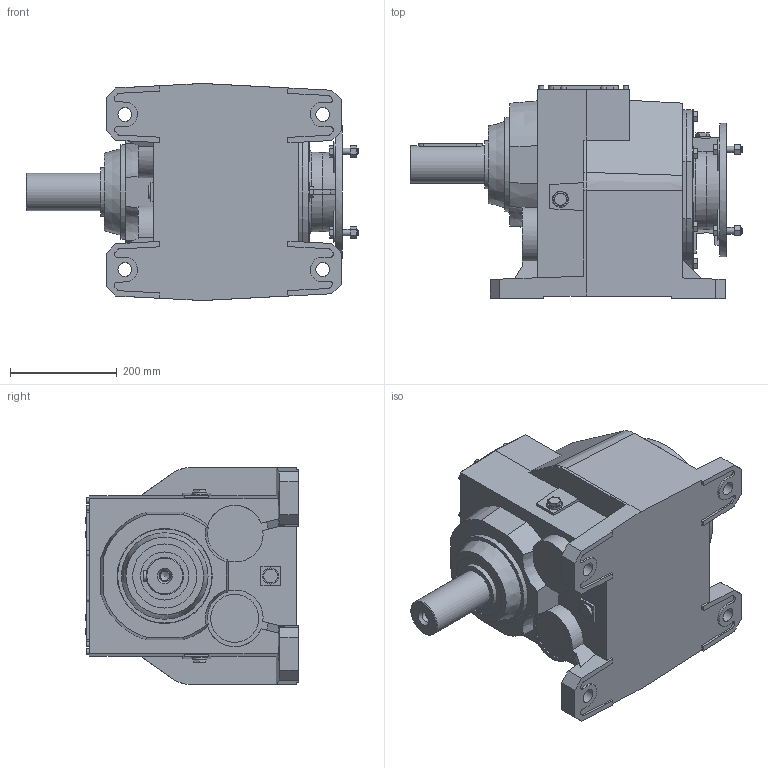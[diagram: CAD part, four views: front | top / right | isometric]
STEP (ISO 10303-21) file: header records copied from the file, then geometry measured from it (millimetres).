
FILE_DESCRIPTION(/* description */ ('STEP AP214'),/* implementation_level */ '2;1');
FILE_NAME(/* name */ 'H123T100-112 B570x1400NO----(-NO----------)',/* time_stamp */ '2024-11-07T10:52:44+01:00',/* author */ ('License CC BY-ND 4.0'),/* organization */ ('CADENAS'),/* preprocessor_version */ 'ST-DEVELOPER v19.3',/* originating_system */ 'PARTsolutions',/* authorisation */ ' ');
FILE_SCHEMA (('AUTOMOTIVE_DESIGN {1 0 10303 214 3 1 1}'));
Length unit declared in the file: millimetre
Products named in the file (5): H123T100-112 B570x1400NO----(-NO----------); 123 T; 123-H-250x28(100-112 B51); 123-250x28; 123T70-1
Assembly tree (4 placements, depth 2):
  H123T100-112 B570x1400NO----(-NO----------)
    123 T
    123-H-250x28(100-112 B51)
    123-250x28
    123T70-1
Bounding box: 621 x 398 x 406 mm (x, y, z)
Volume: 43238102.9 mm3; surface area: 1242757 mm2
Topology: 4 solids, 4 shells, 604 faces, 1531 edges, 1012 vertices
Faces by surface type: plane 436, cylinder 116, cone 51, torus 1
Full cylindrical faces by diameter (mm): 9.412 x3, 10 x12, 12 x8, 17.294 x1, 21 x1, 26 x6, 28 x3, 30 x5, 36 x1, 45 x1, 70 x1, 90 x2, 120 x1, 180 x1, 250 x3
Entity records: 21968 total; most frequent: CARTESIAN_POINT 3370, DIRECTION 2917, ORIENTED_EDGE 2916, EDGE_CURVE 1458, LINE 1025, VECTOR 1025, VERTEX_POINT 999, AXIS2_PLACEMENT_3D 946
